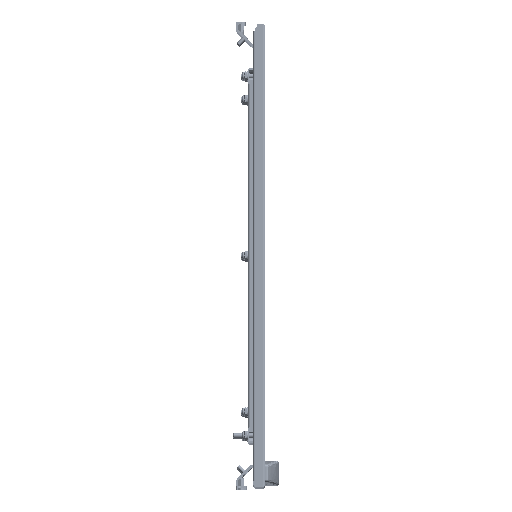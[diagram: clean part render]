
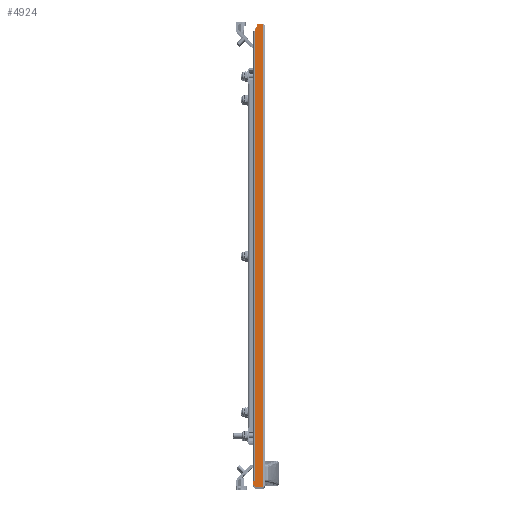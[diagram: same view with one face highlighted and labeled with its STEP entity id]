
A CAD part, top view. The second image highlights one B-rep face of the part: STEP entity #4924.
In plain terms, the highlighted planar face has unit normal (0, 0, 1).
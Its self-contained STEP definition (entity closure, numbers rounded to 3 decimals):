
#4924=ADVANCED_FACE('',(#14848),#14850,.T.);
#14848=FACE_BOUND('',#14849,.T.);
#14849=EDGE_LOOP('',(#35263,#35264,#35265,#35266,#35267,#35268,#35269,#35270,#35271));
#14850=PLANE('',#14851);
#14851=AXIS2_PLACEMENT_3D('',#14852,#14853,#14854);
#14852=CARTESIAN_POINT('',(-13.5,-293.2,685.5));
#14853=DIRECTION('',(0.,0.,1.));
#14854=DIRECTION('',(1.,0.,0.));
#35263=ORIENTED_EDGE('',*,*,#42664,.T.);
#35264=ORIENTED_EDGE('',*,*,#42665,.F.);
#35265=ORIENTED_EDGE('',*,*,#42666,.T.);
#35266=ORIENTED_EDGE('',*,*,#42657,.T.);
#35267=ORIENTED_EDGE('',*,*,#42617,.T.);
#35268=ORIENTED_EDGE('',*,*,#42663,.F.);
#35269=ORIENTED_EDGE('',*,*,#42639,.T.);
#35270=ORIENTED_EDGE('',*,*,#42654,.T.);
#35271=ORIENTED_EDGE('',*,*,#42667,.T.);
#42617=EDGE_CURVE('',#47918,#47925,#47928,.T.);
#42639=EDGE_CURVE('',#47959,#47957,#47960,.F.);
#42654=EDGE_CURVE('',#47957,#47981,#47983,.F.);
#42657=EDGE_CURVE('',#47984,#47918,#47988,.T.);
#42663=EDGE_CURVE('',#47959,#47925,#47997,.T.);
#42664=EDGE_CURVE('',#47998,#47999,#48000,.T.);
#42665=EDGE_CURVE('',#48001,#47999,#48002,.T.);
#42666=EDGE_CURVE('',#48001,#47984,#48003,.F.);
#42667=EDGE_CURVE('',#47981,#47998,#48004,.T.);
#47918=VERTEX_POINT('',#58443);
#47925=VERTEX_POINT('',#58463);
#47928=LINE('',#58471,#58472);
#47957=VERTEX_POINT('',#58548);
#47959=VERTEX_POINT('',#58552);
#47960=CIRCLE('',#58553,1.55);
#47981=VERTEX_POINT('',#58610);
#47983=LINE('',#58614,#58615);
#47984=VERTEX_POINT('',#58617);
#47988=LINE('',#58625,#58626);
#47997=LINE('',#58647,#58648);
#47998=VERTEX_POINT('',#58650);
#47999=VERTEX_POINT('',#58651);
#48000=LINE('',#58652,#58653);
#48001=VERTEX_POINT('',#58655);
#48002=LINE('',#58656,#58657);
#48003=CIRCLE('',#58659,2.8);
#48004=LINE('',#58663,#58664);
#58443=CARTESIAN_POINT('',(-1.3,-296.,685.5));
#58463=CARTESIAN_POINT('',(-1.3,296.,685.5));
#58471=CARTESIAN_POINT('',(-1.3,-296.,685.5));
#58472=VECTOR('',#58473,1.);
#58473=DIRECTION('',(0.,1.,0.));
#58548=CARTESIAN_POINT('',(-9.226,293.57,685.5));
#58552=CARTESIAN_POINT('',(-7.95,296.,685.5));
#58553=AXIS2_PLACEMENT_3D('',#58554,#58555,#58556);
#58554=CARTESIAN_POINT('',(-7.95,294.45,685.5));
#58555=DIRECTION('',(0.,0.,-1.));
#58556=DIRECTION('',(-0.823,-0.568,0.));
#58610=CARTESIAN_POINT('',(-11.95,287.859,685.5));
#58614=CARTESIAN_POINT('',(-11.95,287.859,685.5));
#58615=VECTOR('',#58616,1.);
#58616=DIRECTION('',(0.431,0.903,0.));
#58617=CARTESIAN_POINT('',(-10.7,-296.,685.5));
#58625=CARTESIAN_POINT('',(-10.7,-296.,685.5));
#58626=VECTOR('',#58627,1.);
#58627=DIRECTION('',(1.,0.,0.));
#58647=CARTESIAN_POINT('',(-7.95,296.,685.5));
#58648=VECTOR('',#58649,1.);
#58649=DIRECTION('',(1.,0.,0.));
#58650=CARTESIAN_POINT('',(-11.95,-288.,685.5));
#58651=CARTESIAN_POINT('',(-13.5,-288.,685.5));
#58652=CARTESIAN_POINT('',(-11.95,-288.,685.5));
#58653=VECTOR('',#58654,1.);
#58654=DIRECTION('',(-1.,0.,0.));
#58655=CARTESIAN_POINT('',(-13.5,-293.2,685.5));
#58656=CARTESIAN_POINT('',(-13.5,-293.2,685.5));
#58657=VECTOR('',#58658,1.);
#58658=DIRECTION('',(0.,1.,0.));
#58659=AXIS2_PLACEMENT_3D('',#58660,#58661,#58662);
#58660=CARTESIAN_POINT('',(-10.7,-293.2,685.5));
#58661=DIRECTION('',(0.,0.,-1.));
#58662=DIRECTION('',(0.,-1.,0.));
#58663=CARTESIAN_POINT('',(-11.95,287.859,685.5));
#58664=VECTOR('',#58665,1.);
#58665=DIRECTION('',(0.,-1.,0.));
